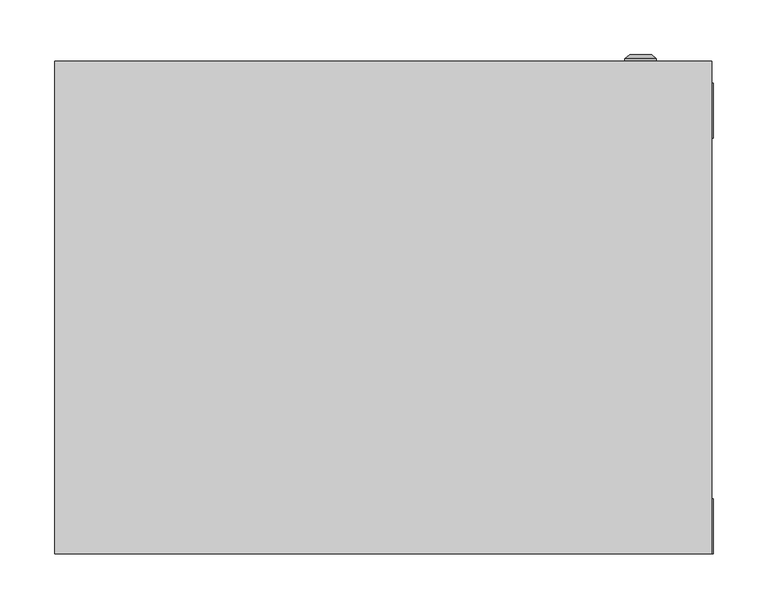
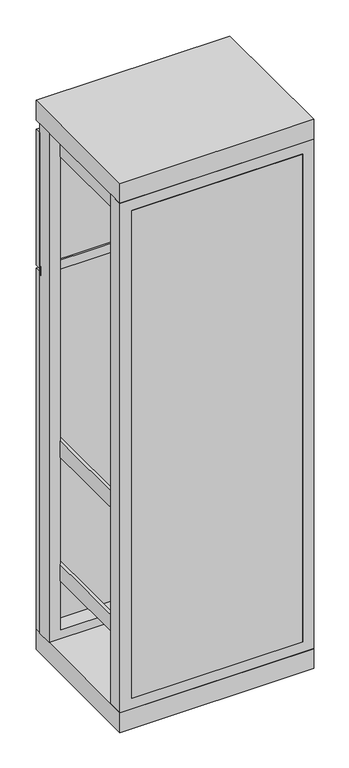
"""IFC4 building model written with IfcOpenShell, lengths in millimetres: proxy geometry, ВРУ-2 : ВРУ-2_1800х600х450."""

from ifc_helpers import new_model, si_unit, frame, origin, origin_with_axes, place, context, project, spatial, polyline, circle_curve, outline, extrude, source, transform, mapped, element, save
from ifc_brep_helpers import plane_surface, cylinder_surface, revolved_surface, advanced_brep


def electrical_equipment_b1d8481f(model_context):
    return source(origin(), model_context, "Body", "SolidModel", [
        extrude(outline(polyline([(300.0, 425.0), (-300.0, 425.0), (-300.0, 430.0), (300.0, 430.0), (300.0, 425.0)])), frame((0.0, 0.0, 1240.0), z_axis=(0.0, 0.0, 1.0), x_axis=(1.0, 0.0, 0.0)), (0.0, 0.0, 1.0), 30.0),
        advanced_brep(
        [(220.669873, 450.0, 1480.0), (249.330127, 450.0, 1480.0), (235.0, 450.0, 1480.0), (220.669873, 452.366592, 1480.0), (249.330127, 452.366592, 1480.0), (225.0, 456.0, 1480.0), (245.0, 456.0, 1480.0), (233.1080471, 456.0, 1480.0), (236.8919529, 456.0, 1480.0), (233.1080471, 454.9822294, 1480.0), (236.8919529, 454.9822294, 1480.0), (235.0, 454.9822294, 1480.0)],
        [
            (0, 1, circle_curve(frame((235.0, 450.0, 1480.0), z_axis=(0.0, -1.0, 0.0), x_axis=(1.0, 0.0, 0.0)), 14.330127)),
            (1, 2),
            (2, 0),
            (1, 0, circle_curve(frame((235.0, 450.0, 1480.0), z_axis=(0.0, -1.0, 0.0), x_axis=(1.0, 0.0, 0.0)), 14.330127)),
            (3, 4, circle_curve(frame((235.0, 452.366592, 1480.0), z_axis=(0.0, -1.0, 0.0), x_axis=(1.0, 0.0, 0.0)), 14.330127)),
            (4, 1),
            (0, 3),
            (4, 3, circle_curve(frame((235.0, 452.366592, 1480.0), z_axis=(0.0, -1.0, 0.0), x_axis=(1.0, 0.0, 0.0)), 14.330127)),
            (5, 6, circle_curve(frame((235.0, 456.0, 1480.0), z_axis=(0.0, -1.0, 0.0), x_axis=(1.0, 0.0, 0.0)), 10.0)),
            (6, 4),
            (3, 5),
            (6, 5, circle_curve(frame((235.0, 456.0, 1480.0), z_axis=(0.0, -1.0, 0.0), x_axis=(1.0, 0.0, 0.0)), 10.0)),
            (7, 8, circle_curve(frame((235.0, 456.0, 1480.0), z_axis=(0.0, -1.0, 0.0), x_axis=(1.0, 0.0, 0.0)), 1.8919529)),
            (8, 6),
            (5, 7),
            (8, 7, circle_curve(frame((235.0, 456.0, 1480.0), z_axis=(0.0, -1.0, 0.0), x_axis=(1.0, 0.0, 0.0)), 1.8919529)),
            (9, 10, circle_curve(frame((235.0, 454.9822294, 1480.0), z_axis=(0.0, -1.0, 0.0), x_axis=(1.0, 0.0, 0.0)), 1.8919529)),
            (10, 8),
            (7, 9),
            (10, 9, circle_curve(frame((235.0, 454.9822294, 1480.0), z_axis=(0.0, -1.0, 0.0), x_axis=(1.0, 0.0, 0.0)), 1.8919529)),
            (11, 10),
            (9, 11),
        ],
        [
            plane_surface(frame((235.0, 450.0, 1480.0), z_axis=(0.0, -1.0, 0.0), x_axis=(1.0, 0.0, 0.0))),
            cylinder_surface(frame((235.0, 463.1348851, 1480.0), z_axis=(0.0, 1.0, 0.0), x_axis=(1.0, 0.0, 0.0)), 14.330127),
            revolved_surface(polyline([(249.330127, 452.366592, 1480.0), (245.0, 456.0, 1480.0)]), (235.0, 463.1348851, 1480.0), (0.0, 1.0, 0.0)),
            plane_surface(frame((235.0, 456.0, 1480.0), z_axis=(0.0, 1.0, 0.0), x_axis=(1.0, 0.0, 0.0))),
            revolved_surface(polyline([(236.8919529, 456.0, 1480.0), (236.8919529, 454.9822294, 1480.0)]), (235.0, 463.1348851, 1480.0), (0.0, 1.0, 0.0)),
            plane_surface(frame((235.0, 454.9822294, 1480.0), z_axis=(0.0, 1.0, 0.0), x_axis=(1.0, 0.0, 0.0))),
        ],
        [
            (0, [[1, 2, 3]]),
            (0, [[4, -3, -2]]),
            (1, [[5, 6, -1, 7]]),
            (1, [[8, -7, -4, -6]]),
            (2, [[9, 10, -5, 11]]),
            (2, [[12, -11, -8, -10]]),
            (3, [[13, 14, -9, 15]]),
            (3, [[16, -15, -12, -14]]),
            (4, [[17, 18, -13, 19]]),
            (4, [[20, -19, -16, -18]]),
            (5, [[21, -17, 22]]),
            (5, [[-22, -20, -21]]),
        ],
    ),
        extrude(outline(polyline([(300.0, 430.0), (-300.0, 430.0), (-300.0, 450.0), (300.0, 450.0), (300.0, 430.0)])), frame((0.0, 0.0, 1260.0), z_axis=(0.0, 0.0, 1.0), x_axis=(1.0, 0.0, 0.0)), (0.0, 0.0, 1.0), 445.0),
        extrude(outline(polyline([(265.8707865, 0.0), (-263.3426966, 0.0), (-263.3426966, 10.0), (265.8707865, 10.0), (265.8707865, 0.0)])), frame((0.0, 0.0, 99.1378449), z_axis=(0.0, 0.0, 1.0), x_axis=(1.0, 0.0, 0.0)), (0.0, 0.0, 1.0), 1599.6160511),
        extrude(outline(polyline([(-255.8707865, 125.9831461), (-215.8707865, 125.9831461), (-215.8707865, 93.1179775), (-218.8707865, 93.1179775), (-218.8707865, 122.9831461), (-252.8707865, 122.9831461), (-252.8707865, 93.1179775), (-255.8707865, 93.1179775), (-255.8707865, 125.9831461)])), frame((0.0, 0.0, 189.6067416), z_axis=(0.0, 0.0, 1.0), x_axis=(1.0, 0.0, 0.0)), (0.0, 0.0, 1.0), 1545.3932584),
        extrude(outline(polyline([(215.8707865, 125.9831461), (255.8707865, 125.9831461), (255.8707865, 93.1179775), (252.8707865, 93.1179775), (252.8707865, 122.9831461), (218.8707865, 122.9831461), (218.8707865, 93.1179775), (215.8707865, 93.1179775), (215.8707865, 125.9831461)])), frame((0.0, 0.0, 189.6067416), z_axis=(0.0, 0.0, 1.0), x_axis=(1.0, 0.0, 0.0)), (0.0, 0.0, 1.0), 1545.3932584),
        extrude(outline(polyline([(-255.8707865, 10.0), (-265.8707865, 10.0), (-265.8707865, 430.0), (-255.8707865, 430.0), (-255.8707865, 10.0)])), frame((0.0, 0.0, 1645.5966059), z_axis=(0.0, 0.0, 1.0), x_axis=(1.0, 0.0, 0.0)), (0.0, 0.0, 1.0), 53.0898876),
        extrude(outline(polyline([(265.8707865, 10.0), (255.8707865, 10.0), (255.8707865, 430.0), (265.8707865, 430.0), (265.8707865, 10.0)])), frame((0.0, 0.0, 1645.5966059), z_axis=(0.0, 0.0, 1.0), x_axis=(1.0, 0.0, 0.0)), (0.0, 0.0, 1.0), 53.0898876),
        extrude(outline(polyline([(-255.8707865, 10.0), (-265.8707865, 10.0), (-265.8707865, 430.0), (-255.8707865, 430.0), (-255.8707865, 10.0)])), frame((0.0, 0.0, 255.5966059), z_axis=(0.0, 0.0, 1.0), x_axis=(1.0, 0.0, 0.0)), (0.0, 0.0, 1.0), 53.0898876),
        extrude(outline(polyline([(265.8707865, 10.0), (255.8707865, 10.0), (255.8707865, 430.0), (265.8707865, 430.0), (265.8707865, 10.0)])), frame((0.0, 0.0, 255.5966059), z_axis=(0.0, 0.0, 1.0), x_axis=(1.0, 0.0, 0.0)), (0.0, 0.0, 1.0), 53.0898876),
        extrude(outline(polyline([(-255.8707865, 10.0), (-265.8707865, 10.0), (-265.8707865, 430.0), (-255.8707865, 430.0), (-255.8707865, 10.0)])), frame((0.0, 0.0, 660.5966059), z_axis=(0.0, 0.0, 1.0), x_axis=(1.0, 0.0, 0.0)), (0.0, 0.0, 1.0), 53.0898876),
        extrude(outline(polyline([(265.8707865, 0.0), (255.8707865, 0.0), (255.8707865, 430.0), (265.8707865, 430.0), (265.8707865, 0.0)])), frame((0.0, 0.0, 660.5966059), z_axis=(0.0, 0.0, 1.0), x_axis=(1.0, 0.0, 0.0)), (0.0, 0.0, 1.0), 53.0898876),
        extrude(outline(polyline([(1734.1471543, -300.0), (65.0187804, -300.0), (65.0187804, 301.2640449), (1734.1471543, 301.2640449), (1734.1471543, -300.0)]), holes=[polyline([(99.1378449, 265.8707865), (99.1378449, -263.3426966), (1698.7538959, -263.3426966), (1698.7538959, 265.8707865), (99.1378449, 265.8707865)])]), frame((0.0, 0.0, 0.0), z_axis=(0.0, 1.0, 0.0), x_axis=(0.0, 0.0, 1.0)), (0.0, 0.0, 1.0), 50.0),
        extrude(outline(polyline([(1735.0, -300.0), (65.0187804, -300.0), (65.0187804, 301.2640449), (1735.0, 301.2640449), (1735.0, -300.0)]), holes=[polyline([(93.3701084, 265.8707865), (93.3701084, -263.3426966), (1692.9861595, -263.3426966), (1692.9861595, 265.8707865), (93.3701084, 265.8707865)])]), frame((0.0, 380.0, 0.0), z_axis=(0.0, 1.0, 0.0), x_axis=(0.0, 0.0, 1.0)), (0.0, 0.0, 1.0), 50.0),
        extrude(outline(polyline([(300.0067809, 450.0), (300.0067809, 0.0), (-300.0, 0.0), (-300.0, 450.0), (300.0067809, 450.0)])), frame((0.0, 0.0, 1735.0), z_axis=(0.0, 0.0, 1.0), x_axis=(1.0, 0.0, 0.0)), (0.0, 0.0, 1.0), 65.0),
        advanced_brep(
        [(220.669873, 450.0, 375.0), (249.330127, 450.0, 375.0), (235.0, 450.0, 375.0), (220.669873, 452.366592, 375.0), (249.330127, 452.366592, 375.0), (225.0, 456.0, 375.0), (245.0, 456.0, 375.0), (233.1080471, 456.0, 375.0), (236.8919529, 456.0, 375.0), (233.1080471, 454.9822294, 375.0), (236.8919529, 454.9822294, 375.0), (235.0, 454.9822294, 375.0)],
        [
            (0, 1, circle_curve(frame((235.0, 450.0, 375.0), z_axis=(0.0, -1.0, 0.0), x_axis=(1.0, 0.0, 0.0)), 14.330127)),
            (1, 2),
            (2, 0),
            (1, 0, circle_curve(frame((235.0, 450.0, 375.0), z_axis=(0.0, -1.0, 0.0), x_axis=(1.0, 0.0, 0.0)), 14.330127)),
            (3, 4, circle_curve(frame((235.0, 452.366592, 375.0), z_axis=(0.0, -1.0, 0.0), x_axis=(1.0, 0.0, 0.0)), 14.330127)),
            (4, 1),
            (0, 3),
            (4, 3, circle_curve(frame((235.0, 452.366592, 375.0), z_axis=(0.0, -1.0, 0.0), x_axis=(1.0, 0.0, 0.0)), 14.330127)),
            (5, 6, circle_curve(frame((235.0, 456.0, 375.0), z_axis=(0.0, -1.0, 0.0), x_axis=(1.0, 0.0, 0.0)), 10.0)),
            (6, 4),
            (3, 5),
            (6, 5, circle_curve(frame((235.0, 456.0, 375.0), z_axis=(0.0, -1.0, 0.0), x_axis=(1.0, 0.0, 0.0)), 10.0)),
            (7, 8, circle_curve(frame((235.0, 456.0, 375.0), z_axis=(0.0, -1.0, 0.0), x_axis=(1.0, 0.0, 0.0)), 1.8919529)),
            (8, 6),
            (5, 7),
            (8, 7, circle_curve(frame((235.0, 456.0, 375.0), z_axis=(0.0, -1.0, 0.0), x_axis=(1.0, 0.0, 0.0)), 1.8919529)),
            (9, 10, circle_curve(frame((235.0, 454.9822294, 375.0), z_axis=(0.0, -1.0, 0.0), x_axis=(1.0, 0.0, 0.0)), 1.8919529)),
            (10, 8),
            (7, 9),
            (10, 9, circle_curve(frame((235.0, 454.9822294, 375.0), z_axis=(0.0, -1.0, 0.0), x_axis=(1.0, 0.0, 0.0)), 1.8919529)),
            (11, 10),
            (9, 11),
        ],
        [
            plane_surface(frame((235.0, 450.0, 375.0), z_axis=(0.0, -1.0, 0.0), x_axis=(1.0, 0.0, 0.0))),
            cylinder_surface(frame((235.0, 463.1348851, 375.0), z_axis=(0.0, 1.0, 0.0), x_axis=(1.0, 0.0, 0.0)), 14.330127),
            revolved_surface(polyline([(249.330127, 452.366592, 375.0), (245.0, 456.0, 375.0)]), (235.0, 463.1348851, 375.0), (0.0, 1.0, 0.0)),
            plane_surface(frame((235.0, 456.0, 375.0), z_axis=(0.0, 1.0, 0.0), x_axis=(1.0, 0.0, 0.0))),
            revolved_surface(polyline([(236.8919529, 456.0, 375.0), (236.8919529, 454.9822294, 375.0)]), (235.0, 463.1348851, 375.0), (0.0, 1.0, 0.0)),
            plane_surface(frame((235.0, 454.9822294, 375.0), z_axis=(0.0, 1.0, 0.0), x_axis=(1.0, 0.0, 0.0))),
        ],
        [
            (0, [[1, 2, 3]]),
            (0, [[4, -3, -2]]),
            (1, [[5, 6, -1, 7]]),
            (1, [[8, -7, -4, -6]]),
            (2, [[9, 10, -5, 11]]),
            (2, [[12, -11, -8, -10]]),
            (3, [[13, 14, -9, 15]]),
            (3, [[16, -15, -12, -14]]),
            (4, [[17, 18, -13, 19]]),
            (4, [[20, -19, -16, -18]]),
            (5, [[21, -17, 22]]),
            (5, [[-22, -20, -21]]),
        ],
    ),
        advanced_brep(
        [(220.669873, 450.0, 880.0), (249.330127, 450.0, 880.0), (235.0, 450.0, 880.0), (220.669873, 452.366592, 880.0), (249.330127, 452.366592, 880.0), (225.0, 456.0, 880.0), (245.0, 456.0, 880.0), (233.1080471, 456.0, 880.0), (236.8919529, 456.0, 880.0), (233.1080471, 454.9822294, 880.0), (236.8919529, 454.9822294, 880.0), (235.0, 454.9822294, 880.0)],
        [
            (0, 1, circle_curve(frame((235.0, 450.0, 880.0), z_axis=(0.0, -1.0, 0.0), x_axis=(1.0, 0.0, 0.0)), 14.330127)),
            (1, 2),
            (2, 0),
            (1, 0, circle_curve(frame((235.0, 450.0, 880.0), z_axis=(0.0, -1.0, 0.0), x_axis=(1.0, 0.0, 0.0)), 14.330127)),
            (3, 4, circle_curve(frame((235.0, 452.366592, 880.0), z_axis=(0.0, -1.0, 0.0), x_axis=(1.0, 0.0, 0.0)), 14.330127)),
            (4, 1),
            (0, 3),
            (4, 3, circle_curve(frame((235.0, 452.366592, 880.0), z_axis=(0.0, -1.0, 0.0), x_axis=(1.0, 0.0, 0.0)), 14.330127)),
            (5, 6, circle_curve(frame((235.0, 456.0, 880.0), z_axis=(0.0, -1.0, 0.0), x_axis=(1.0, 0.0, 0.0)), 10.0)),
            (6, 4),
            (3, 5),
            (6, 5, circle_curve(frame((235.0, 456.0, 880.0), z_axis=(0.0, -1.0, 0.0), x_axis=(1.0, 0.0, 0.0)), 10.0)),
            (7, 8, circle_curve(frame((235.0, 456.0, 880.0), z_axis=(0.0, -1.0, 0.0), x_axis=(1.0, 0.0, 0.0)), 1.8919529)),
            (8, 6),
            (5, 7),
            (8, 7, circle_curve(frame((235.0, 456.0, 880.0), z_axis=(0.0, -1.0, 0.0), x_axis=(1.0, 0.0, 0.0)), 1.8919529)),
            (9, 10, circle_curve(frame((235.0, 454.9822294, 880.0), z_axis=(0.0, -1.0, 0.0), x_axis=(1.0, 0.0, 0.0)), 1.8919529)),
            (10, 8),
            (7, 9),
            (10, 9, circle_curve(frame((235.0, 454.9822294, 880.0), z_axis=(0.0, -1.0, 0.0), x_axis=(1.0, 0.0, 0.0)), 1.8919529)),
            (11, 10),
            (9, 11),
        ],
        [
            plane_surface(frame((235.0, 450.0, 880.0), z_axis=(0.0, -1.0, 0.0), x_axis=(1.0, 0.0, 0.0))),
            cylinder_surface(frame((235.0, 463.1348851, 880.0), z_axis=(0.0, 1.0, 0.0), x_axis=(1.0, 0.0, 0.0)), 14.330127),
            revolved_surface(polyline([(249.330127, 452.366592, 880.0), (245.0, 456.0, 880.0)]), (235.0, 463.1348851, 880.0), (0.0, 1.0, 0.0)),
            plane_surface(frame((235.0, 456.0, 880.0), z_axis=(0.0, 1.0, 0.0), x_axis=(1.0, 0.0, 0.0))),
            revolved_surface(polyline([(236.8919529, 456.0, 880.0), (236.8919529, 454.9822294, 880.0)]), (235.0, 463.1348851, 880.0), (0.0, 1.0, 0.0)),
            plane_surface(frame((235.0, 454.9822294, 880.0), z_axis=(0.0, 1.0, 0.0), x_axis=(1.0, 0.0, 0.0))),
        ],
        [
            (0, [[1, 2, 3]]),
            (0, [[4, -3, -2]]),
            (1, [[5, 6, -1, 7]]),
            (1, [[8, -7, -4, -6]]),
            (2, [[9, 10, -5, 11]]),
            (2, [[12, -11, -8, -10]]),
            (3, [[13, 14, -9, 15]]),
            (3, [[16, -15, -12, -14]]),
            (4, [[17, 18, -13, 19]]),
            (4, [[20, -19, -16, -18]]),
            (5, [[21, -17, 22]]),
            (5, [[-22, -20, -21]]),
        ],
    ),
        extrude(outline(polyline([(300.0067809, 450.0), (300.0067809, 0.0), (-300.0, 0.0), (-300.0, 450.0), (300.0067809, 450.0)])), origin_with_axes(), (0.0, 0.0, 1.0), 65.0187804),
        extrude(outline(polyline([(300.0, 430.0), (-300.0, 430.0), (-300.0, 450.0), (300.0, 450.0), (300.0, 430.0)])), frame((0.0, 0.0, 65.0187804), z_axis=(0.0, 0.0, 1.0), x_axis=(1.0, 0.0, 0.0)), (0.0, 0.0, 1.0), 1184.9812196),
    ])


if __name__ == "__main__":
    model = new_model("IFC4")
    model_context = context("Model", 3, world=origin())
    ifc_project = project(units=[si_unit("LENGTHUNIT", "METRE", prefix="MILLI")], contexts=[model_context])
    site = spatial("IfcSite", under=ifc_project)
    building = spatial("IfcBuilding", under=site)
    placement = place(None, origin())
    electrical_equipment_shape = electrical_equipment_b1d8481f(model_context)
    element("IfcBuildingElementProxy", 1, Name="ВРУ-2 : ВРУ-2_1800х600х450", ObjectType="ВРУ-2 : ВРУ-2_1800х600х450", at=placement, inside=building, context=model_context, shape_type="MappedRepresentation", body=[
        mapped(electrical_equipment_shape, transform((0.0, 0.0, 0.0), x_axis=(1.0, 0.0, 0.0), y_axis=(0.0, 1.0, 0.0), z_axis=(0.0, 0.0, 1.0))),
    ])
    save(model, "model.ifc")
